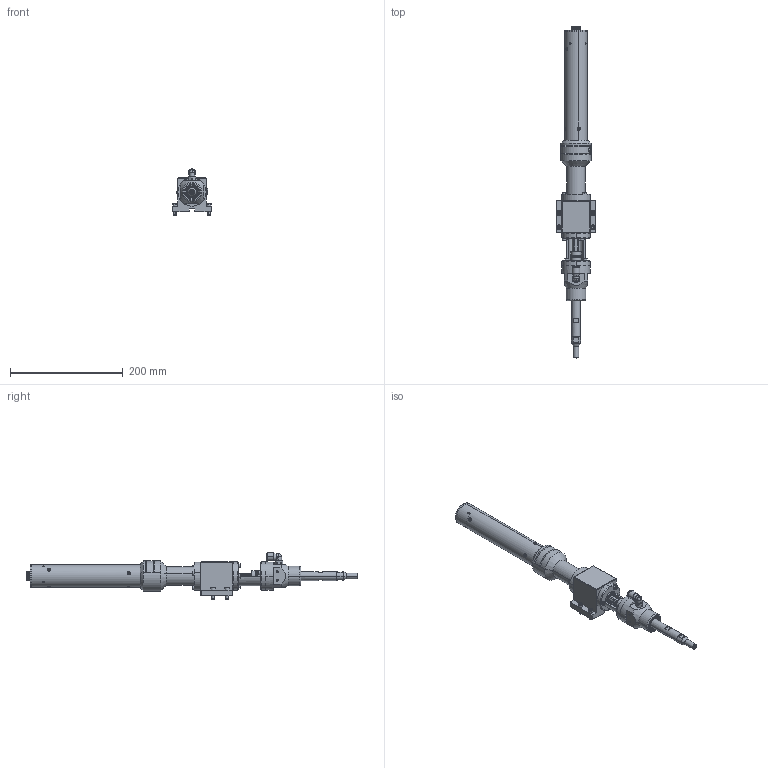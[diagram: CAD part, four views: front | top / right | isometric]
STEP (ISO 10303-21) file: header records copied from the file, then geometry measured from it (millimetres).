
FILE_DESCRIPTION (( 'STEP AP214' ), '1' );
FILE_NAME ('VTP-A.STEP', '2026-02-03T11:00:23', ( '' ), ( '' ), 'SwSTEP 2.0', 'SolidWorks 2022', '' );
FILE_SCHEMA (( 'AUTOMOTIVE_DESIGN' ));
Length unit declared in the file: millimetre
Products named in the file (1): VTP-A
Bounding box: 70 x 590.15 x 82.15 mm (x, y, z)
Surface area: 113659 mm2 (no closed solid volume)
Topology: 0 solids, 84 shells, 561 faces, 1775 edges, 1242 vertices
Faces by surface type: plane 189, cylinder 184, cone 126, bspline 40, torus 20, sphere 2
Entity records: 33567 total; most frequent: CARTESIAN_POINT 11894, DIRECTION 3408, ORIENTED_EDGE 2754, EDGE_CURVE 1757, AXIS2_PLACEMENT_3D 1356, VERTEX_POINT 1240, CIRCLE 834, VECTOR 696
